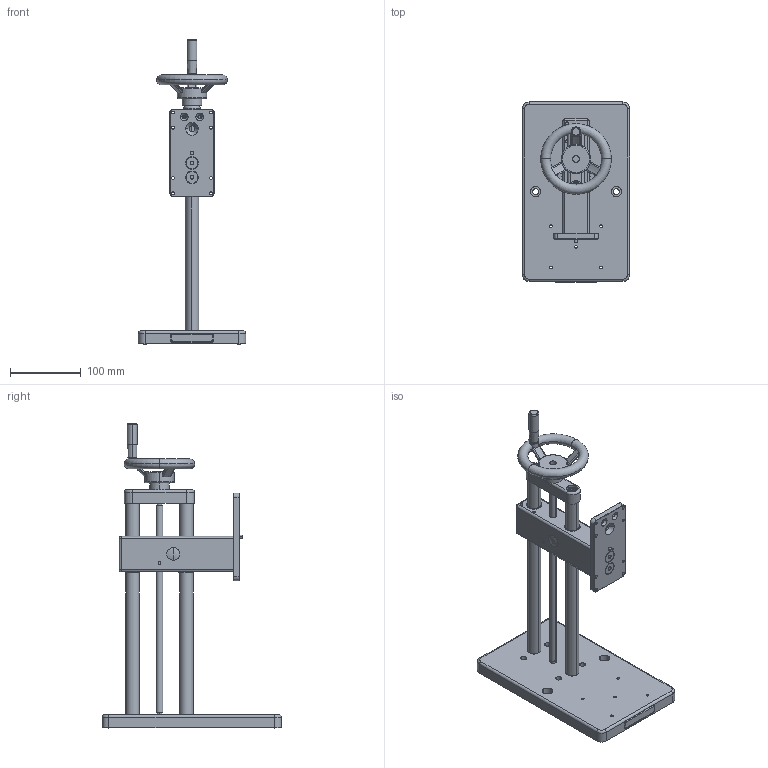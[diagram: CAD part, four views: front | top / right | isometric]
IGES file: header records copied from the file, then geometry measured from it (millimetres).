
Global section: file name: No Iges File Name specified; native system: Autodesk Inventor 2010; preprocessor: AutoDesk Inventor Iges Exporter R2010; author: mlampen; date: 20170621.144337; units: inch
Bounding box: 151.89 x 254.83 x 431.48 mm (x, y, z)
Volume: 1322246.9 mm3; surface area: 242315.3 mm2
Topology: 4 solids, 4 shells, 523 faces, 1205 edges, 724 vertices
Faces by surface type: revolution 173, plane 149, cylinder 85, cone 63, torus 21, bspline 20, sphere 12
